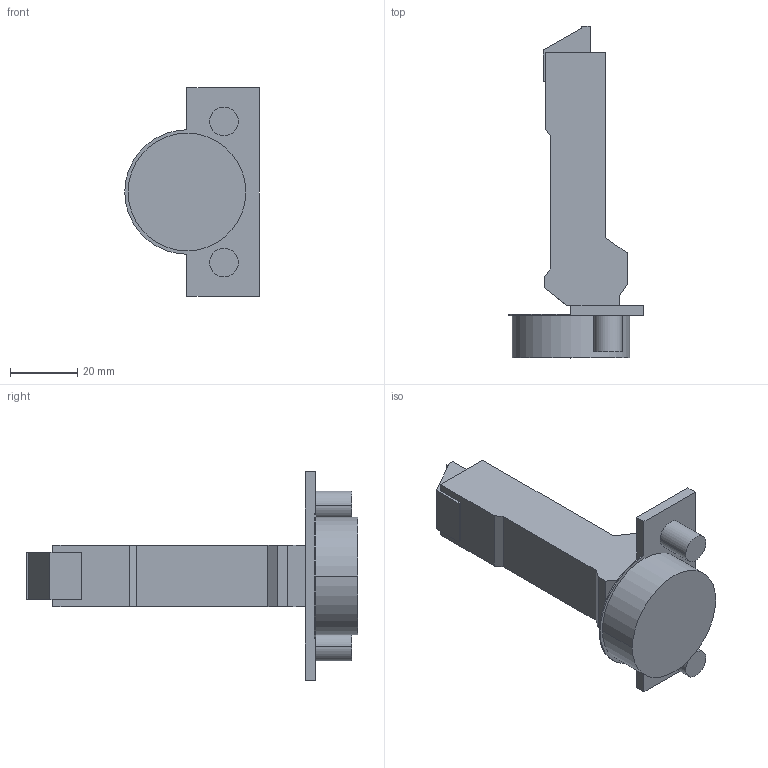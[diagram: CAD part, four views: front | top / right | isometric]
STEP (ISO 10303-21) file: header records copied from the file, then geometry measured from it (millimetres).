
FILE_DESCRIPTION (( 'STEP AP214' ), '1' );
FILE_NAME ('Scharnier TS Click-on 120° G_BB, K95_Dübel.step', '2010-12-06T09:58:31', ( 'grass' ), ( '' ), 'SwSTEP 2.0', 'SolidWorks 2010', '' );
FILE_SCHEMA (( 'AUTOMOTIVE_DESIGN' ));
Length unit declared in the file: millimetre
Products named in the file (1): Scharnier TS Click-on 120° G_BB, K95_Dübel
Bounding box: 40 x 98.7 x 62 mm (x, y, z)
Volume: 43336.9 mm3; surface area: 12405 mm2
Topology: 1 solids, 1 shells, 57 faces, 139 edges, 92 vertices
Faces by surface type: plane 40, cylinder 17
Entity records: 1705 total; most frequent: DIRECTION 289, CARTESIAN_POINT 289, ORIENTED_EDGE 278, EDGE_CURVE 139, LINE 105, VECTOR 105, AXIS2_PLACEMENT_3D 92, VERTEX_POINT 92
